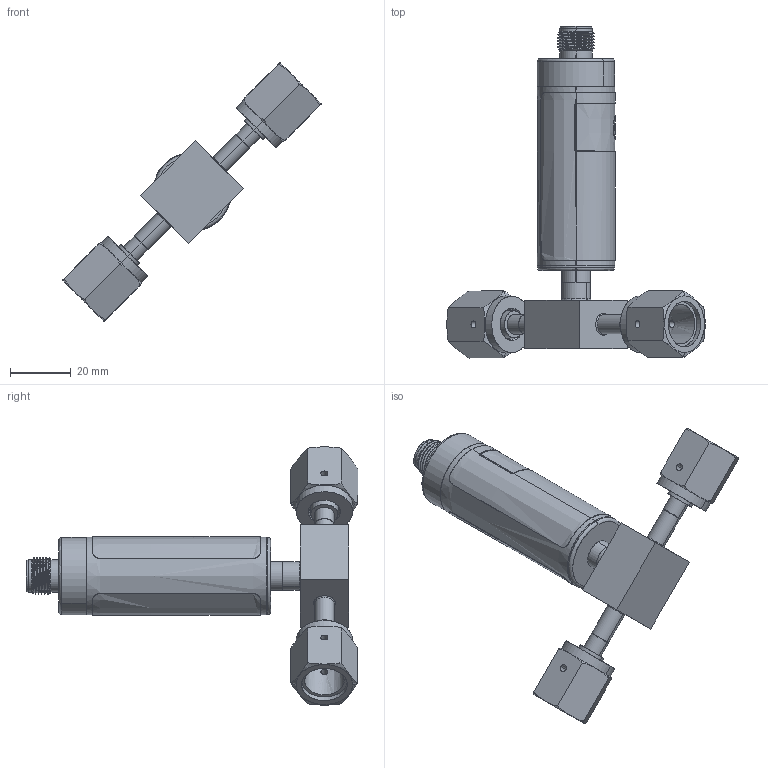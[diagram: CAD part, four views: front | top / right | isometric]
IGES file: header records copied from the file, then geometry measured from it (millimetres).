
Start section: SolidWorks IGES file using analytic representation for surfaces
Global section: file name: R:\Brooks Instrument\25-0024 SSII CAD File Generation\Client Files\SSII CAD Models for Website\CAD for Brooks Website\Example\GSF\GSF-XXXXXX-Q-XXX-SF\IGES\GSF-XXXXXX-Q-XXX-SF.IGS; native system: SolidWorks 2023; preprocessor: SolidWorks 2023; author: dgoddard; date: 250623.110720; units: inch
Bounding box: 84.75 x 108.96 x 84.75 mm (x, y, z)
Surface area: 24345.7 mm2 (no closed solid volume)
Topology: 0 solids, 0 shells, 366 faces, 5799 edges, 5791 vertices
Faces by surface type: revolution 185, bspline 181
